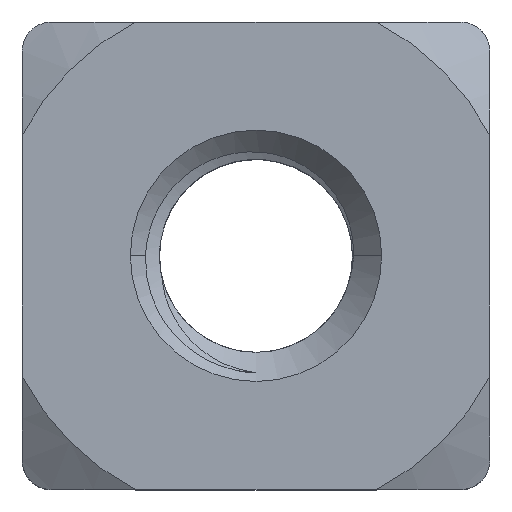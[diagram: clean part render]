
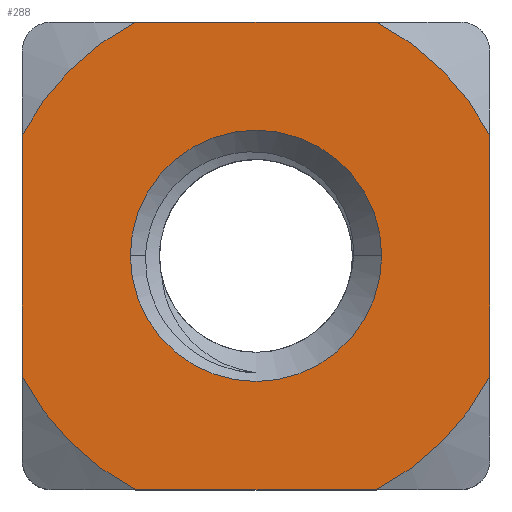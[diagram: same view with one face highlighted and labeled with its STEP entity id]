
A CAD part, top view. The second image highlights one B-rep face of the part: STEP entity #288.
In plain terms, the highlighted planar face has unit normal (0, 0, 1).
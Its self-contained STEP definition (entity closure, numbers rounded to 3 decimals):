
#40 = CARTESIAN_POINT ( 'NONE',  ( -2.062, 4., 2. ) ) ;
#60 = AXIS2_PLACEMENT_3D ( 'NONE', #260, #66, #1744 ) ;
#66 = DIRECTION ( 'NONE',  ( 0., 0., 1. ) ) ;
#105 = CARTESIAN_POINT ( 'NONE',  ( 2.062, -4., 2. ) ) ;
#123 = DIRECTION ( 'NONE',  ( 0., 0., 1. ) ) ;
#136 = VECTOR ( 'NONE', #251, 1000. ) ;
#137 = ORIENTED_EDGE ( 'NONE', *, *, #813, .T. ) ;
#140 = VERTEX_POINT ( 'NONE', #1072 ) ;
#161 = CARTESIAN_POINT ( 'NONE',  ( 0., 0., 2. ) ) ;
#169 = VERTEX_POINT ( 'NONE', #491 ) ;
#193 = EDGE_CURVE ( 'NONE', #1613, #1111, #640, .T. ) ;
#216 = VERTEX_POINT ( 'NONE', #591 ) ;
#217 = ORIENTED_EDGE ( 'NONE', *, *, #1163, .T. ) ;
#251 = DIRECTION ( 'NONE',  ( 0., 1., 0. ) ) ;
#260 = CARTESIAN_POINT ( 'NONE',  ( 0., 0., 2. ) ) ;
#288 = ADVANCED_FACE ( 'NONE', ( #968, #1138 ), #1657, .T. ) ;
#289 = EDGE_LOOP ( 'NONE', ( #469, #1394, #867, #805, #1157, #515, #1517, #217 ) ) ;
#311 = DIRECTION ( 'NONE',  ( 1., 0., 0. ) ) ;
#314 = CARTESIAN_POINT ( 'NONE',  ( 0., 0., 2. ) ) ;
#320 = DIRECTION ( 'NONE',  ( -1., 0., 0. ) ) ;
#331 = EDGE_CURVE ( 'NONE', #216, #140, #1074, .T. ) ;
#336 = EDGE_CURVE ( 'NONE', #533, #169, #1359, .T. ) ;
#337 = VERTEX_POINT ( 'NONE', #1377 ) ;
#344 = CIRCLE ( 'NONE', #1475, 2.15 ) ;
#374 = EDGE_CURVE ( 'NONE', #337, #1035, #344, .T. ) ;
#444 = CARTESIAN_POINT ( 'NONE',  ( 4., 4., 2. ) ) ;
#453 = DIRECTION ( 'NONE',  ( 1., 0., 0. ) ) ;
#465 = AXIS2_PLACEMENT_3D ( 'NONE', #314, #123, #1795 ) ;
#469 = ORIENTED_EDGE ( 'NONE', *, *, #193, .T. ) ;
#491 = CARTESIAN_POINT ( 'NONE',  ( -4., 2.062, 2. ) ) ;
#510 = DIRECTION ( 'NONE',  ( 0., 0., -1. ) ) ;
#515 = ORIENTED_EDGE ( 'NONE', *, *, #331, .T. ) ;
#516 = CARTESIAN_POINT ( 'NONE',  ( -4., 4., 2. ) ) ;
#533 = VERTEX_POINT ( 'NONE', #40 ) ;
#551 = AXIS2_PLACEMENT_3D ( 'NONE', #841, #649, #453 ) ;
#569 = CARTESIAN_POINT ( 'NONE',  ( 4., -2.062, 2. ) ) ;
#576 = DIRECTION ( 'NONE',  ( 1., 0., 0. ) ) ;
#590 = DIRECTION ( 'NONE',  ( 0., -1., 0. ) ) ;
#591 = CARTESIAN_POINT ( 'NONE',  ( -4., -2.062, 2. ) ) ;
#602 = CIRCLE ( 'NONE', #465, 4.5 ) ;
#640 = LINE ( 'NONE', #444, #136 ) ;
#649 = DIRECTION ( 'NONE',  ( 0., 0., 1. ) ) ;
#668 = CARTESIAN_POINT ( 'NONE',  ( 2.062, 4., 2. ) ) ;
#707 = DIRECTION ( 'NONE',  ( 1., 0., 0. ) ) ;
#711 = LINE ( 'NONE', #516, #721 ) ;
#721 = VECTOR ( 'NONE', #320, 1000. ) ;
#747 = ORIENTED_EDGE ( 'NONE', *, *, #374, .T. ) ;
#772 = CARTESIAN_POINT ( 'NONE',  ( -4., -4., 2. ) ) ;
#789 = CARTESIAN_POINT ( 'NONE',  ( -4., 4., 2. ) ) ;
#805 = ORIENTED_EDGE ( 'NONE', *, *, #336, .T. ) ;
#813 = EDGE_CURVE ( 'NONE', #1035, #337, #1592, .T. ) ;
#841 = CARTESIAN_POINT ( 'NONE',  ( 0., 0., 2. ) ) ;
#867 = ORIENTED_EDGE ( 'NONE', *, *, #1844, .T. ) ;
#870 = CARTESIAN_POINT ( 'NONE',  ( -2.15, 0., 2. ) ) ;
#893 = CARTESIAN_POINT ( 'NONE',  ( 0., 0., 2. ) ) ;
#896 = DIRECTION ( 'NONE',  ( 0., 0., -1. ) ) ;
#916 = VERTEX_POINT ( 'NONE', #668 ) ;
#950 = EDGE_CURVE ( 'NONE', #140, #1110, #1156, .T. ) ;
#968 = FACE_BOUND ( 'NONE', #1809, .T. ) ;
#976 = LINE ( 'NONE', #789, #1689 ) ;
#1035 = VERTEX_POINT ( 'NONE', #870 ) ;
#1072 = CARTESIAN_POINT ( 'NONE',  ( -2.062, -4., 2. ) ) ;
#1074 = CIRCLE ( 'NONE', #551, 4.5 ) ;
#1082 = DIRECTION ( 'NONE',  ( 1., 0., 0. ) ) ;
#1092 = CARTESIAN_POINT ( 'NONE',  ( 0., 0., 2. ) ) ;
#1101 = AXIS2_PLACEMENT_3D ( 'NONE', #1465, #1272, #1082 ) ;
#1110 = VERTEX_POINT ( 'NONE', #105 ) ;
#1111 = VERTEX_POINT ( 'NONE', #1781 ) ;
#1138 = FACE_OUTER_BOUND ( 'NONE', #289, .T. ) ;
#1156 = LINE ( 'NONE', #772, #1210 ) ;
#1157 = ORIENTED_EDGE ( 'NONE', *, *, #1674, .T. ) ;
#1163 = EDGE_CURVE ( 'NONE', #1110, #1613, #1824, .T. ) ;
#1210 = VECTOR ( 'NONE', #576, 1000. ) ;
#1272 = DIRECTION ( 'NONE',  ( 0., 0., 1. ) ) ;
#1359 = CIRCLE ( 'NONE', #60, 4.5 ) ;
#1377 = CARTESIAN_POINT ( 'NONE',  ( 2.15, 0., 2. ) ) ;
#1394 = ORIENTED_EDGE ( 'NONE', *, *, #1537, .T. ) ;
#1465 = CARTESIAN_POINT ( 'NONE',  ( 0., 0., 2. ) ) ;
#1475 = AXIS2_PLACEMENT_3D ( 'NONE', #1092, #896, #707 ) ;
#1505 = AXIS2_PLACEMENT_3D ( 'NONE', #893, #510, #311 ) ;
#1517 = ORIENTED_EDGE ( 'NONE', *, *, #950, .T. ) ;
#1537 = EDGE_CURVE ( 'NONE', #1111, #916, #602, .T. ) ;
#1592 = CIRCLE ( 'NONE', #1505, 2.15 ) ;
#1613 = VERTEX_POINT ( 'NONE', #569 ) ;
#1657 = PLANE ( 'NONE',  #1101 ) ;
#1662 = DIRECTION ( 'NONE',  ( 1., 0., 0. ) ) ;
#1674 = EDGE_CURVE ( 'NONE', #169, #216, #976, .T. ) ;
#1689 = VECTOR ( 'NONE', #590, 1000. ) ;
#1744 = DIRECTION ( 'NONE',  ( 1., 0., 0. ) ) ;
#1772 = AXIS2_PLACEMENT_3D ( 'NONE', #161, #1831, #1662 ) ;
#1781 = CARTESIAN_POINT ( 'NONE',  ( 4., 2.062, 2. ) ) ;
#1795 = DIRECTION ( 'NONE',  ( 1., 0., 0. ) ) ;
#1809 = EDGE_LOOP ( 'NONE', ( #747, #137 ) ) ;
#1824 = CIRCLE ( 'NONE', #1772, 4.5 ) ;
#1831 = DIRECTION ( 'NONE',  ( 0., 0., 1. ) ) ;
#1844 = EDGE_CURVE ( 'NONE', #916, #533, #711, .T. ) ;
